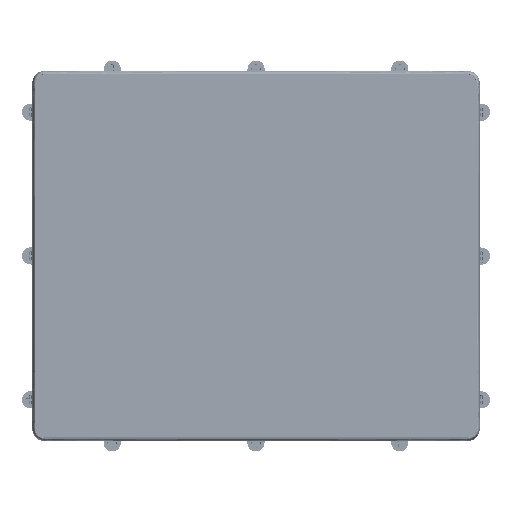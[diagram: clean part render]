
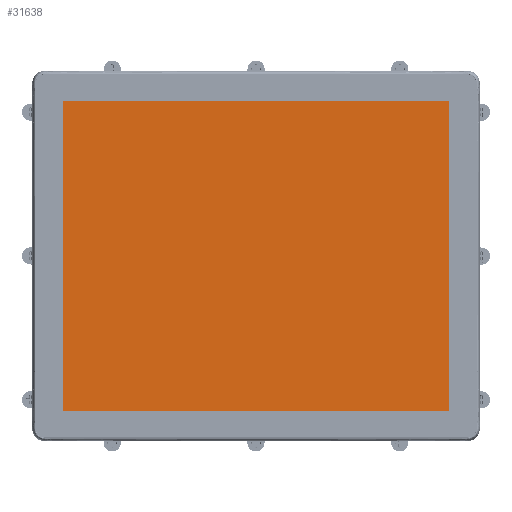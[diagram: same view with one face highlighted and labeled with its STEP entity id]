
A CAD part, top view. The second image highlights one B-rep face of the part: STEP entity #31638.
In plain terms, the highlighted planar face has unit normal (0, 0, 1).
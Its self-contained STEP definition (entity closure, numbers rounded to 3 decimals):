
#3418=DIRECTION('',(0.,-1.,0.));
#3419=VECTOR('',#3418,271.34);
#3420=CARTESIAN_POINT('',(-169.46,135.67,5.94));
#3421=LINE('',#3420,#3419);
#3422=DIRECTION('',(-1.,0.,0.));
#3423=VECTOR('',#3422,338.92);
#3424=CARTESIAN_POINT('',(169.46,135.67,5.94));
#3425=LINE('',#3424,#3423);
#3426=DIRECTION('',(0.,1.,0.));
#3427=VECTOR('',#3426,271.34);
#3428=CARTESIAN_POINT('',(169.46,-135.67,5.94));
#3429=LINE('',#3428,#3427);
#3430=DIRECTION('',(1.,0.,0.));
#3431=VECTOR('',#3430,338.92);
#3432=CARTESIAN_POINT('',(-169.46,-135.67,5.94));
#3433=LINE('',#3432,#3431);
#27513=CARTESIAN_POINT('',(-169.46,135.67,5.94));
#27515=VERTEX_POINT('',#27513);
#27518=CARTESIAN_POINT('',(-169.46,-135.67,5.94));
#27520=VERTEX_POINT('',#27518);
#27521=CARTESIAN_POINT('',(169.46,135.67,5.94));
#27523=VERTEX_POINT('',#27521);
#27525=CARTESIAN_POINT('',(169.46,-135.67,5.94));
#27527=VERTEX_POINT('',#27525);
#31627=CARTESIAN_POINT('',(0.,0.,5.94));
#31628=DIRECTION('',(0.,0.,1.));
#31629=DIRECTION('',(1.,0.,0.));
#31630=AXIS2_PLACEMENT_3D('',#31627,#31628,#31629);
#31631=PLANE('',#31630);
#31632=ORIENTED_EDGE('',*,*,#31550,.F.);
#31633=ORIENTED_EDGE('',*,*,#31574,.F.);
#31634=ORIENTED_EDGE('',*,*,#31593,.F.);
#31635=ORIENTED_EDGE('',*,*,#31613,.F.);
#31636=EDGE_LOOP('',(#31632,#31633,#31634,#31635));
#31637=FACE_OUTER_BOUND('',#31636,.F.);
#31638=ADVANCED_FACE('',(#31637),#31631,.T.);
#31550=EDGE_CURVE('',#27515,#27520,#3421,.T.);
#31574=EDGE_CURVE('',#27523,#27515,#3425,.T.);
#31593=EDGE_CURVE('',#27527,#27523,#3429,.T.);
#31613=EDGE_CURVE('',#27520,#27527,#3433,.T.);
